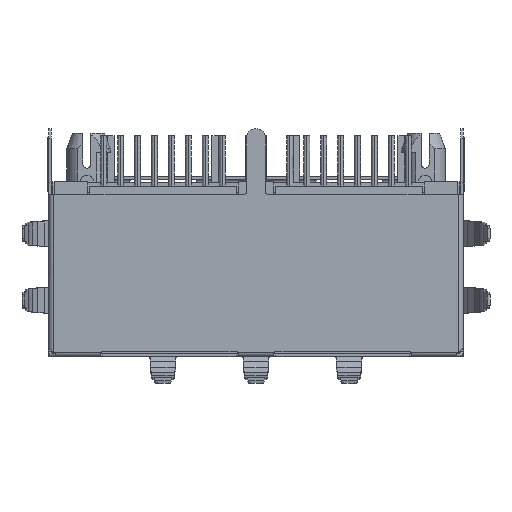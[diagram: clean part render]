
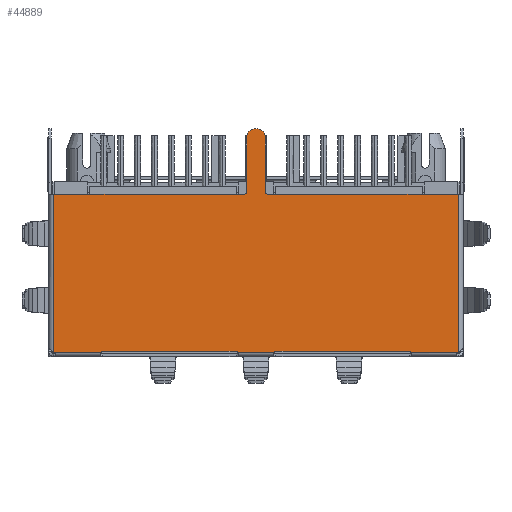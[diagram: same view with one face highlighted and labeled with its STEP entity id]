
A CAD part, top view. The second image highlights one B-rep face of the part: STEP entity #44889.
In plain terms, the highlighted planar face has unit normal (0, 0, 1) as drawn and (0, 0, -1) by its records, which use the part's own axes.
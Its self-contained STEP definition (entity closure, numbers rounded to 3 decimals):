
#34386=DIRECTION('',(0.,1.,0.));
#34387=VECTOR('',#34386,11.87);
#34388=CARTESIAN_POINT('',(-15.16,1.33,-21.07));
#34389=LINE('',#34388,#34387);
#34535=DIRECTION('',(-1.,0.,0.));
#34536=VECTOR('',#34535,14.26);
#34537=CARTESIAN_POINT('',(-0.9,1.33,-21.07));
#34538=LINE('',#34537,#34536);
#34539=CARTESIAN_POINT('',(-0.9,1.13,-21.07));
#34540=DIRECTION('',(0.,0.,1.));
#34541=DIRECTION('',(1.,0.,0.));
#34542=AXIS2_PLACEMENT_3D('',#34539,#34540,#34541);
#34544=DIRECTION('',(0.,1.,0.));
#34545=VECTOR('',#34544,4.03);
#34546=CARTESIAN_POINT('',(-0.7,-2.9,-21.07));
#34547=LINE('',#34546,#34545);
#34548=CARTESIAN_POINT('',(0.,-2.9,-21.07));
#34549=DIRECTION('',(0.,0.,-1.));
#34550=DIRECTION('',(1.,0.,0.));
#34551=AXIS2_PLACEMENT_3D('',#34548,#34549,#34550);
#34553=DIRECTION('',(0.,-1.,0.));
#34554=VECTOR('',#34553,4.03);
#34555=CARTESIAN_POINT('',(0.7,1.13,-21.07));
#34556=LINE('',#34555,#34554);
#34557=CARTESIAN_POINT('',(0.9,1.13,-21.07));
#34558=DIRECTION('',(0.,0.,1.));
#34559=DIRECTION('',(0.,1.,0.));
#34560=AXIS2_PLACEMENT_3D('',#34557,#34558,#34559);
#34562=DIRECTION('',(-1.,0.,0.));
#34563=VECTOR('',#34562,14.26);
#34564=CARTESIAN_POINT('',(15.16,1.33,-21.07));
#34565=LINE('',#34564,#34563);
#34566=CARTESIAN_POINT('',(11.5,13.329,-21.07));
#34567=DIRECTION('',(0.,0.,-1.));
#34568=DIRECTION('',(0.766,-0.643,0.));
#34569=AXIS2_PLACEMENT_3D('',#34566,#34567,#34568);
#34571=DIRECTION('',(1.,0.,0.));
#34572=VECTOR('',#34571,10.);
#34573=CARTESIAN_POINT('',(1.5,13.129,-21.07));
#34574=LINE('',#34573,#34572);
#34575=CARTESIAN_POINT('',(1.5,13.329,-21.07));
#34576=DIRECTION('',(0.,0.,-1.));
#34577=DIRECTION('',(0.,-1.,0.));
#34578=AXIS2_PLACEMENT_3D('',#34575,#34576,#34577);
#34580=CARTESIAN_POINT('',(-1.5,13.329,-21.07));
#34581=DIRECTION('',(0.,0.,-1.));
#34582=DIRECTION('',(0.766,-0.643,0.));
#34583=AXIS2_PLACEMENT_3D('',#34580,#34581,#34582);
#34585=DIRECTION('',(1.,0.,0.));
#34586=VECTOR('',#34585,10.);
#34587=CARTESIAN_POINT('',(-11.5,13.129,-21.07));
#34588=LINE('',#34587,#34586);
#34589=CARTESIAN_POINT('',(-11.5,13.329,-21.07));
#34590=DIRECTION('',(0.,0.,-1.));
#34591=DIRECTION('',(0.,-1.,0.));
#34592=AXIS2_PLACEMENT_3D('',#34589,#34590,#34591);
#34708=DIRECTION('',(1.,0.,0.));
#34709=VECTOR('',#34708,2.694);
#34710=CARTESIAN_POINT('',(-1.347,13.2,-21.07));
#34711=LINE('',#34710,#34709);
#34746=DIRECTION('',(1.,0.,0.));
#34747=VECTOR('',#34746,3.507);
#34748=CARTESIAN_POINT('',(11.653,13.2,-21.07));
#34749=LINE('',#34748,#34747);
#34762=DIRECTION('',(1.,0.,0.));
#34763=VECTOR('',#34762,3.507);
#34764=CARTESIAN_POINT('',(-15.16,13.2,-21.07));
#34765=LINE('',#34764,#34763);
#34930=DIRECTION('',(0.,1.,0.));
#34931=VECTOR('',#34930,11.87);
#34932=CARTESIAN_POINT('',(15.16,1.33,-21.07));
#34933=LINE('',#34932,#34931);
#39454=CARTESIAN_POINT('',(15.16,1.33,-21.07));
#39455=VERTEX_POINT('',#39454);
#39456=CARTESIAN_POINT('',(15.16,13.2,-21.07));
#39457=VERTEX_POINT('',#39456);
#39674=CARTESIAN_POINT('',(-15.16,1.33,-21.07));
#39675=VERTEX_POINT('',#39674);
#39676=CARTESIAN_POINT('',(-15.16,13.2,-21.07));
#39677=VERTEX_POINT('',#39676);
#40144=CARTESIAN_POINT('',(-11.653,13.2,-21.07));
#40145=VERTEX_POINT('',#40144);
#40190=CARTESIAN_POINT('',(-11.5,13.129,-21.07));
#40191=CARTESIAN_POINT('',(-1.5,13.129,-21.07));
#40192=VERTEX_POINT('',#40190);
#40193=VERTEX_POINT('',#40191);
#40194=CARTESIAN_POINT('',(-1.347,13.2,-21.07));
#40195=VERTEX_POINT('',#40194);
#40196=CARTESIAN_POINT('',(11.653,13.2,-21.07));
#40197=CARTESIAN_POINT('',(11.5,13.129,-21.07));
#40198=VERTEX_POINT('',#40196);
#40199=VERTEX_POINT('',#40197);
#40200=CARTESIAN_POINT('',(1.5,13.129,-21.07));
#40201=CARTESIAN_POINT('',(1.347,13.2,-21.07));
#40202=VERTEX_POINT('',#40200);
#40203=VERTEX_POINT('',#40201);
#41216=CARTESIAN_POINT('',(0.7,1.13,-21.07));
#41217=CARTESIAN_POINT('',(0.7,-2.9,-21.07));
#41218=VERTEX_POINT('',#41216);
#41219=VERTEX_POINT('',#41217);
#41220=CARTESIAN_POINT('',(-0.7,-2.9,-21.07));
#41221=VERTEX_POINT('',#41220);
#41222=CARTESIAN_POINT('',(-0.7,1.13,-21.07));
#41223=VERTEX_POINT('',#41222);
#41224=CARTESIAN_POINT('',(-0.9,1.33,-21.07));
#41225=VERTEX_POINT('',#41224);
#41226=CARTESIAN_POINT('',(0.9,1.33,-21.07));
#41227=VERTEX_POINT('',#41226);
#44850=CARTESIAN_POINT('',(15.56,13.5,-21.07));
#44851=DIRECTION('',(0.,0.,-1.));
#44852=DIRECTION('',(1.,0.,0.));
#44853=AXIS2_PLACEMENT_3D('',#44850,#44851,#44852);
#44854=PLANE('',#44853);
#44855=ORIENTED_EDGE('',*,*,#44811,.F.);
#44856=ORIENTED_EDGE('',*,*,#44840,.F.);
#44858=ORIENTED_EDGE('',*,*,#44857,.F.);
#44860=ORIENTED_EDGE('',*,*,#44859,.F.);
#44862=ORIENTED_EDGE('',*,*,#44861,.F.);
#44864=ORIENTED_EDGE('',*,*,#44863,.F.);
#44865=ORIENTED_EDGE('',*,*,#44830,.F.);
#44867=ORIENTED_EDGE('',*,*,#44866,.T.);
#44869=ORIENTED_EDGE('',*,*,#44868,.F.);
#44871=ORIENTED_EDGE('',*,*,#44870,.T.);
#44873=ORIENTED_EDGE('',*,*,#44872,.F.);
#44875=ORIENTED_EDGE('',*,*,#44874,.T.);
#44877=ORIENTED_EDGE('',*,*,#44876,.F.);
#44879=ORIENTED_EDGE('',*,*,#44878,.T.);
#44881=ORIENTED_EDGE('',*,*,#44880,.F.);
#44883=ORIENTED_EDGE('',*,*,#44882,.T.);
#44885=ORIENTED_EDGE('',*,*,#44884,.F.);
#44886=ORIENTED_EDGE('',*,*,#44628,.F.);
#44887=EDGE_LOOP('',(#44855,#44856,#44858,#44860,#44862,#44864,#44865,#44867,
#44869,#44871,#44873,#44875,#44877,#44879,#44881,#44883,#44885,#44886));
#44888=FACE_OUTER_BOUND('',#44887,.F.);
#44889=ADVANCED_FACE('',(#44888),#44854,.T.);
#34543=CIRCLE('',#34542,0.2);
#34552=CIRCLE('',#34551,0.7);
#34561=CIRCLE('',#34560,0.2);
#34570=CIRCLE('',#34569,0.2);
#34579=CIRCLE('',#34578,0.2);
#34584=CIRCLE('',#34583,0.2);
#34593=CIRCLE('',#34592,0.2);
#44628=EDGE_CURVE('',#39675,#39677,#34389,.T.);
#44811=EDGE_CURVE('',#41225,#39675,#34538,.T.);
#44830=EDGE_CURVE('',#39455,#41227,#34565,.T.);
#44840=EDGE_CURVE('',#41223,#41225,#34543,.T.);
#44857=EDGE_CURVE('',#41221,#41223,#34547,.T.);
#44859=EDGE_CURVE('',#41219,#41221,#34552,.T.);
#44861=EDGE_CURVE('',#41218,#41219,#34556,.T.);
#44863=EDGE_CURVE('',#41227,#41218,#34561,.T.);
#44866=EDGE_CURVE('',#39455,#39457,#34933,.T.);
#44868=EDGE_CURVE('',#40198,#39457,#34749,.T.);
#44870=EDGE_CURVE('',#40198,#40199,#34570,.T.);
#44872=EDGE_CURVE('',#40202,#40199,#34574,.T.);
#44874=EDGE_CURVE('',#40202,#40203,#34579,.T.);
#44876=EDGE_CURVE('',#40195,#40203,#34711,.T.);
#44878=EDGE_CURVE('',#40195,#40193,#34584,.T.);
#44880=EDGE_CURVE('',#40192,#40193,#34588,.T.);
#44882=EDGE_CURVE('',#40192,#40145,#34593,.T.);
#44884=EDGE_CURVE('',#39677,#40145,#34765,.T.);
